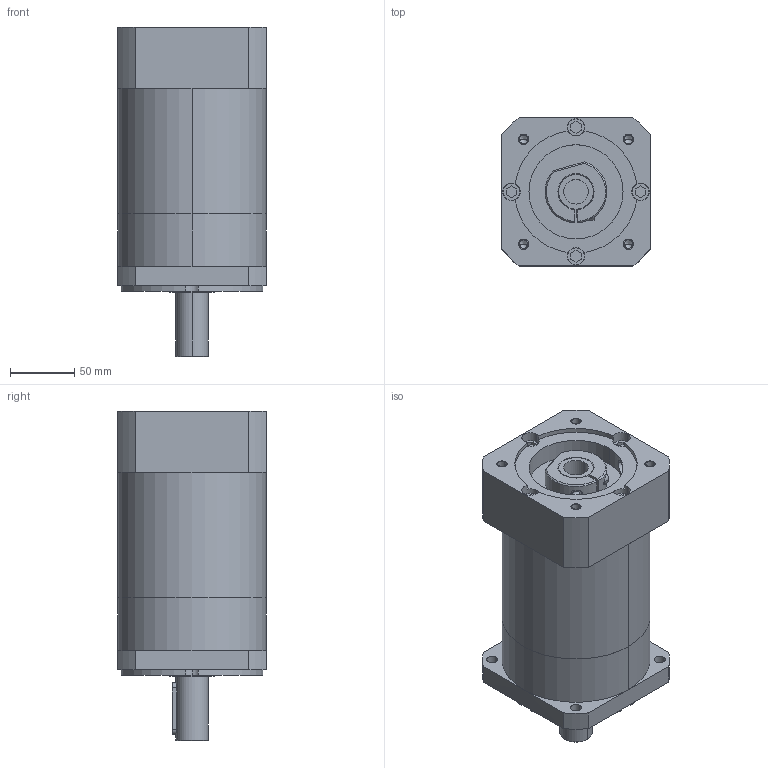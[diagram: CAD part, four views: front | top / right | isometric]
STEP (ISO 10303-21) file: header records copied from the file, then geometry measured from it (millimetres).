
FILE_DESCRIPTION((''),'2;1');
FILE_NAME('PLE120_115_3_ASM','2008-04-11T',('Ille'),(''),'PRO/ENGINEER BY PARAMETRIC TECHNOLOGY CORPORATION, 2005170','PRO/ENGINEER BY PARAMETRIC TECHNOLOGY CORPORATION, 2005170','');
FILE_SCHEMA(('CONFIG_CONTROL_DESIGN'));
Length unit declared in the file: millimetre
Products named in the file (5): PLE120_115_3; 210-288_065-000; M6_10; M8_10; PLE120_115_3_ASM
Assembly tree (11 placements, depth 2):
  PLE120_115_3_ASM
    PLE120_115_3
    210-288_065-000
    M6_10
    M8_10  x8
Bounding box: 115 x 115 x 255.7 mm (x, y, z)
Volume: 2212082.3 mm3; surface area: 167418.6 mm2
Topology: 12 solids, 27 shells, 361 faces, 841 edges, 547 vertices
Faces by surface type: cylinder 161, plane 158, cone 42
Entity records: 7128 total; most frequent: CARTESIAN_POINT 1442, DIRECTION 1279, ORIENTED_EDGE 1042, EDGE_CURVE 537, AXIS2_PLACEMENT_3D 522, VERTEX_POINT 351, EDGE_LOOP 274, CIRCLE 270
